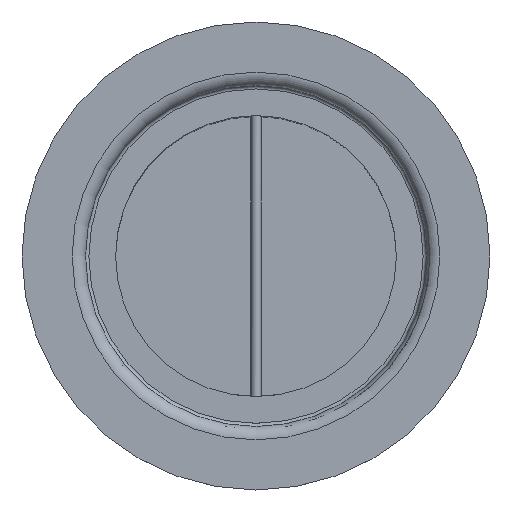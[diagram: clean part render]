
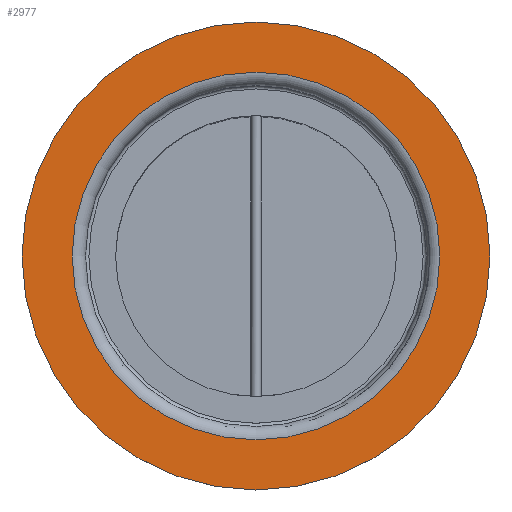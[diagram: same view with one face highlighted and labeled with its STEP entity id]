
A CAD part, top view. The second image highlights one B-rep face of the part: STEP entity #2977.
In plain terms, the highlighted planar face has unit normal (0, 0, 1).
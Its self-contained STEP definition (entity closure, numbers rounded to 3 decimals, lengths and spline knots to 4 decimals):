
#182=FACE_BOUND('',#476,.T.);
#273=PLANE('',#3167);
#305=FACE_OUTER_BOUND('',#475,.T.);
#475=EDGE_LOOP('',(#1960));
#476=EDGE_LOOP('',(#1961));
#1051=CIRCLE('',#3168,2.1875);
#1052=CIRCLE('',#3169,1.7188);
#1209=VERTEX_POINT('',#4300);
#1210=VERTEX_POINT('',#4302);
#1509=EDGE_CURVE('',#1209,#1209,#1051,.T.);
#1510=EDGE_CURVE('',#1210,#1210,#1052,.T.);
#1960=ORIENTED_EDGE('',*,*,#1509,.F.);
#1961=ORIENTED_EDGE('',*,*,#1510,.T.);
#2977=ADVANCED_FACE('',(#305,#182),#273,.T.);
#3167=AXIS2_PLACEMENT_3D('',#4299,#3496,#3497);
#3168=AXIS2_PLACEMENT_3D('',#4301,#3498,#3499);
#3169=AXIS2_PLACEMENT_3D('',#4303,#3500,#3501);
#3496=DIRECTION('center_axis',(0.,0.,1.));
#3497=DIRECTION('ref_axis',(1.,0.,0.));
#3498=DIRECTION('center_axis',(0.,0.,-1.));
#3499=DIRECTION('ref_axis',(1.,0.,0.));
#3500=DIRECTION('center_axis',(0.,0.,-1.));
#3501=DIRECTION('ref_axis',(1.,0.,0.));
#4299=CARTESIAN_POINT('Origin',(0.,0.,0.0625));
#4300=CARTESIAN_POINT('',(-2.1875,0.,0.0625));
#4301=CARTESIAN_POINT('Origin',(0.,0.,0.0625));
#4302=CARTESIAN_POINT('',(-1.7188,0.,0.0625));
#4303=CARTESIAN_POINT('Origin',(0.,0.,0.0625));
